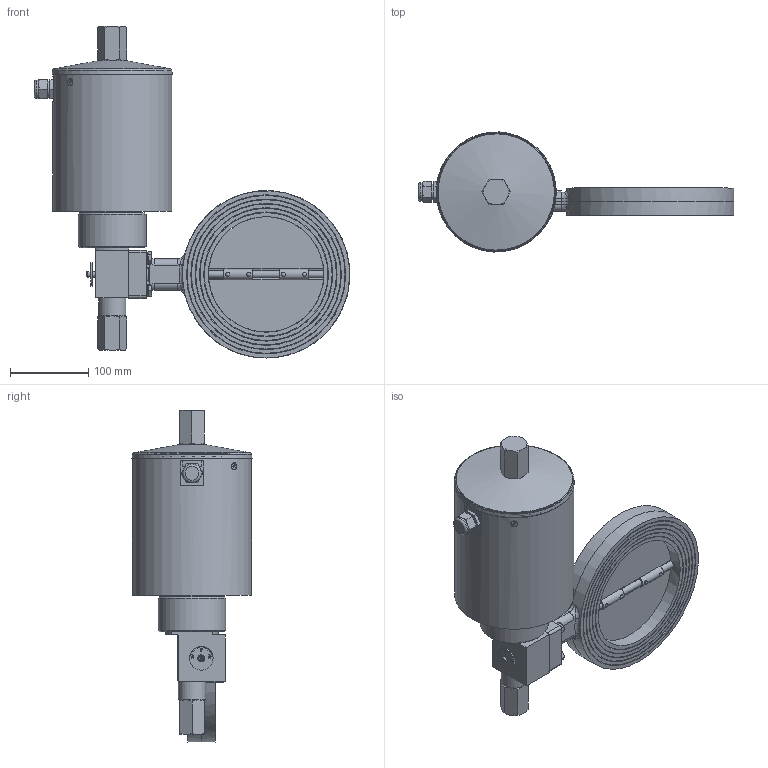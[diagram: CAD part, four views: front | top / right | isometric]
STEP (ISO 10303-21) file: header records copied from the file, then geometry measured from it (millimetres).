
FILE_DESCRIPTION((''),'2;1');
FILE_NAME('G:\CAD-Download\MRK\MRK Ro Ma\DN 150\MRK Ro Ma 150-4.stp','2010-09-24T08:48:09',('da'),(''),'Autodesk Inventor 2008','Autodesk Inventor 2008','');
FILE_SCHEMA(('AUTOMOTIVE_DESIGN { 1 0 10303 214 1 1 1 1 }'));
Length unit declared in the file: millimetre
Products named in the file (1): Bauteil2
Bounding box: 403.7 x 153.78 x 425.04 mm (x, y, z)
Surface area: 349006.4 mm2 (no closed solid volume)
Topology: 0 solids, 1 shells, 683 faces, 1765 edges, 1126 vertices
Faces by surface type: plane 415, cylinder 90, bspline 86, cone 73, torus 11, sphere 8
Full cylindrical faces by diameter (mm): 3 x4, 7 x2, 8 x4, 9 x1, 10 x1, 11.63 x4, 20 x1, 23.713 x1, 30 x1, 35 x1, 72 x1, 87 x1, 147.5 x1, 148 x1, 149 x1, 150 x2, 152.4 x1
Entity records: 23702 total; most frequent: CARTESIAN_POINT 7718, ORIENTED_EDGE 3298, DIRECTION 2943, EDGE_CURVE 1649, VERTEX_POINT 1093, AXIS2_PLACEMENT_3D 993, VECTOR 957, LINE 957
